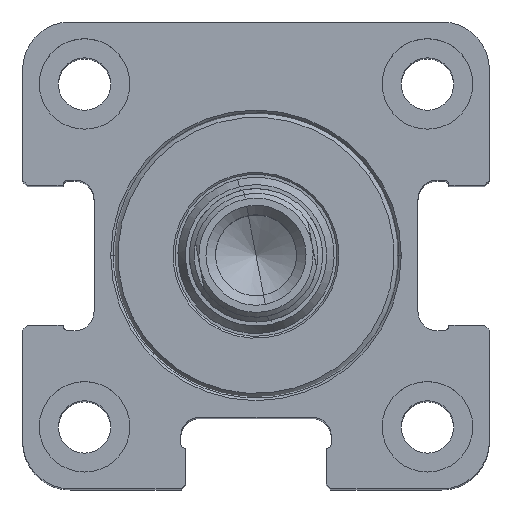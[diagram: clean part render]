
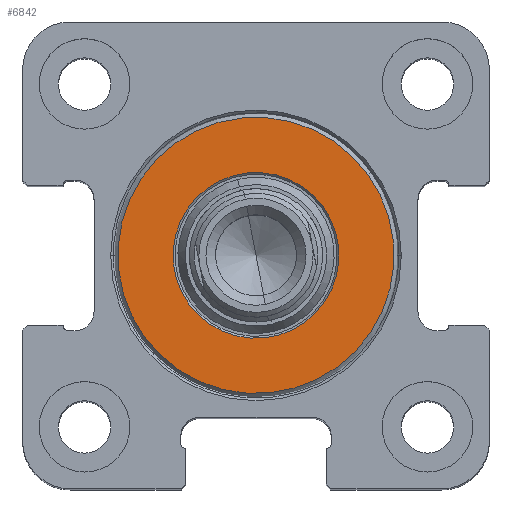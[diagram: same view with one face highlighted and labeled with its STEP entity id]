
A CAD part, top view. The second image highlights one B-rep face of the part: STEP entity #6842.
In plain terms, the highlighted planar face has unit normal (0, 0, 1) as drawn and (-1, 0, 0) by its records, which use the part's own axes.
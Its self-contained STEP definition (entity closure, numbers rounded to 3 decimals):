
#73 = FACE_OUTER_BOUND ( 'NONE', #1796, .T. ) ;
#402 = VERTEX_POINT ( 'NONE', #2805 ) ;
#805 = ORIENTED_EDGE ( 'NONE', *, *, #12123, .T. ) ;
#831 = CIRCLE ( 'NONE', #12129, 8.7 ) ;
#1700 = DIRECTION ( 'NONE',  ( -1., 0., 0. ) ) ;
#1788 = EDGE_CURVE ( 'NONE', #402, #2161, #6888, .T. ) ;
#1796 = EDGE_LOOP ( 'NONE', ( #10286, #8814 ) ) ;
#2012 = AXIS2_PLACEMENT_3D ( 'NONE', #3087, #1700, #4247 ) ;
#2161 = VERTEX_POINT ( 'NONE', #5632 ) ;
#2280 = CIRCLE ( 'NONE', #2012, 14.5 ) ;
#2580 = DIRECTION ( 'NONE',  ( 0., 0., -1. ) ) ;
#2680 = EDGE_LOOP ( 'NONE', ( #805, #12783 ) ) ;
#2805 = CARTESIAN_POINT ( 'NONE',  ( 0., 0., -14.5 ) ) ;
#3087 = CARTESIAN_POINT ( 'NONE',  ( 0., 0., 0. ) ) ;
#3657 = DIRECTION ( 'NONE',  ( 1., 0., 0. ) ) ;
#3775 = CARTESIAN_POINT ( 'NONE',  ( 0., 7., 0. ) ) ;
#4247 = DIRECTION ( 'NONE',  ( 0., 0., -1. ) ) ;
#5420 = CARTESIAN_POINT ( 'NONE',  ( 0., 0., 8.7 ) ) ;
#5632 = CARTESIAN_POINT ( 'NONE',  ( 0., 0., 14.5 ) ) ;
#6842 = ADVANCED_FACE ( 'NONE', ( #15062, #73 ), #7638, .F. ) ;
#6888 = CIRCLE ( 'NONE', #13994, 14.5 ) ;
#7212 = DIRECTION ( 'NONE',  ( 0., 0., -1. ) ) ;
#7296 = CARTESIAN_POINT ( 'NONE',  ( 0., 0., 0. ) ) ;
#7638 = PLANE ( 'NONE',  #9412 ) ;
#7738 = CARTESIAN_POINT ( 'NONE',  ( 0., 0., 0. ) ) ;
#8814 = ORIENTED_EDGE ( 'NONE', *, *, #15423, .T. ) ;
#9245 = EDGE_CURVE ( 'NONE', #14765, #10570, #831, .T. ) ;
#9412 = AXIS2_PLACEMENT_3D ( 'NONE', #3775, #14981, #11349 ) ;
#10286 = ORIENTED_EDGE ( 'NONE', *, *, #1788, .T. ) ;
#10570 = VERTEX_POINT ( 'NONE', #5420 ) ;
#11349 = DIRECTION ( 'NONE',  ( 0., 0., -1. ) ) ;
#11473 = CARTESIAN_POINT ( 'NONE',  ( 0., 0., 0. ) ) ;
#11838 = CARTESIAN_POINT ( 'NONE',  ( 0., 0., -8.7 ) ) ;
#12123 = EDGE_CURVE ( 'NONE', #10570, #14765, #15300, .T. ) ;
#12129 = AXIS2_PLACEMENT_3D ( 'NONE', #7738, #13681, #12771 ) ;
#12771 = DIRECTION ( 'NONE',  ( 0., 0., -1. ) ) ;
#12783 = ORIENTED_EDGE ( 'NONE', *, *, #9245, .T. ) ;
#13681 = DIRECTION ( 'NONE',  ( 1., 0., 0. ) ) ;
#13994 = AXIS2_PLACEMENT_3D ( 'NONE', #7296, #14715, #7212 ) ;
#14516 = AXIS2_PLACEMENT_3D ( 'NONE', #11473, #3657, #2580 ) ;
#14715 = DIRECTION ( 'NONE',  ( -1., 0., 0. ) ) ;
#14765 = VERTEX_POINT ( 'NONE', #11838 ) ;
#14981 = DIRECTION ( 'NONE',  ( 1., 0., 0. ) ) ;
#15062 = FACE_BOUND ( 'NONE', #2680, .T. ) ;
#15300 = CIRCLE ( 'NONE', #14516, 8.7 ) ;
#15423 = EDGE_CURVE ( 'NONE', #2161, #402, #2280, .T. ) ;
